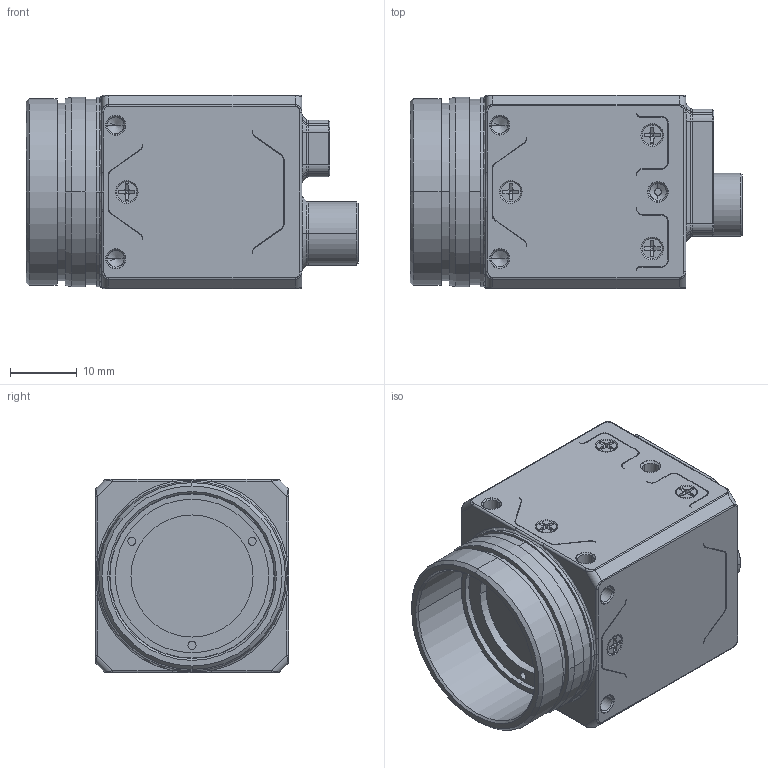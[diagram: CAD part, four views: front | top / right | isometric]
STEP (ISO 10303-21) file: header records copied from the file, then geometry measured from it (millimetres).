
FILE_DESCRIPTION((''),'2;1');
FILE_NAME('00-MV-CT050-60UM-PRO','2025-10-31T11:14:55',('sunli10'),(''),'CREO PARAMETRIC BY PTC INC, 2020044','CREO PARAMETRIC BY PTC INC, 2020044','');
FILE_SCHEMA(('CONFIG_CONTROL_DESIGN'));
Products named in the file (1): 00-MV-CT050-60UM-PRO
Bounding box: 49.76 x 29 x 29 mm (x, y, z)
Volume: 26846.4 mm3; surface area: 14664.3 mm2
Topology: 2 solids, 107 shells, 4789 faces, 13414 edges, 8726 vertices
Faces by surface type: plane 2744, cylinder 1557, cone 364, torus 72, bspline 50, sphere 2
Entity records: 164316 total; most frequent: CARTESIAN_POINT 39923, ORIENTED_EDGE 26502, DIRECTION 25540, EDGE_CURVE 13360, VERTEX_POINT 8724, VECTOR 8554, LINE 8554, AXIS2_PLACEMENT_3D 8493
